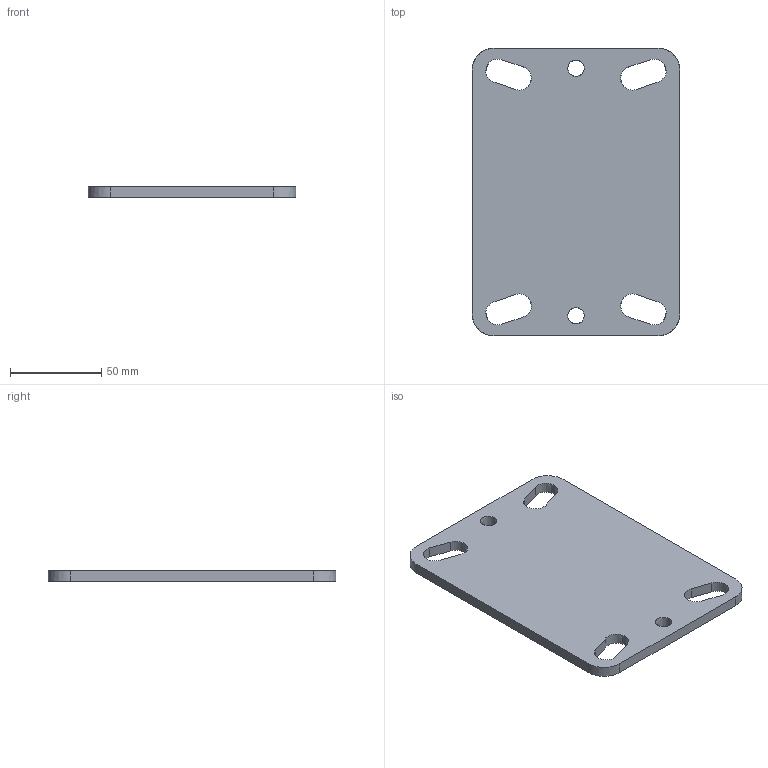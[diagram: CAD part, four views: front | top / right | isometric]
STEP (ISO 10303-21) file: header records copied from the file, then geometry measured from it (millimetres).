
FILE_DESCRIPTION (( 'STEP AP203' ), '1' );
FILE_NAME ('KTU-200WK-GS-11.STEP', '2019-09-25T07:30:40', ( '' ), ( '' ), 'SwSTEP 2.0', 'SolidWorks 2010', '' );
FILE_SCHEMA (( 'CONFIG_CONTROL_DESIGN' ));
Length unit declared in the file: millimetre
Products named in the file (1): KTU-200WK-GS-11
Bounding box: 114 x 158 x 6 mm (x, y, z)
Volume: 99438.7 mm3; surface area: 38211.8 mm2
Topology: 1 solids, 1 shells, 30 faces, 84 edges, 56 vertices
Faces by surface type: bspline 16, plane 14
Entity records: 1657 total; most frequent: CARTESIAN_POINT 907, ORIENTED_EDGE 168, EDGE_CURVE 84, DIRECTION 74, VERTEX_POINT 56, VECTOR 44, LINE 44, EDGE_LOOP 42
